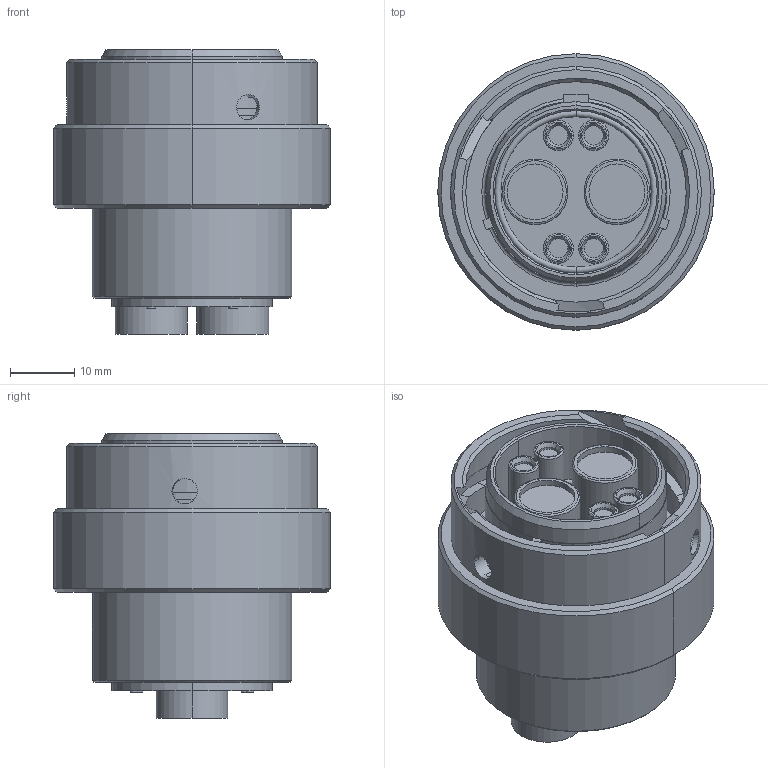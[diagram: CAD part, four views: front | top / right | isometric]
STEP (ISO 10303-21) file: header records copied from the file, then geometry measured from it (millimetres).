
FILE_DESCRIPTION((''),'2;1');
FILE_NAME('C-HD36-18-6SN','2013-03-28T',('workeradm'),('Tyco Electronics Ltd.'),'PRO/ENGINEER BY PARAMETRIC TECHNOLOGY CORPORATION, 2011490','PRO/ENGINEER BY PARAMETRIC TECHNOLOGY CORPORATION, 2011490','');
FILE_SCHEMA(('AUTOMOTIVE_DESIGN { 1 0 10303 214 1 1 1 1 }'));
Length unit declared in the file: millimetre
Products named in the file (1): C-HD36-18-6SN
Bounding box: 42.98 x 42.98 x 44.25 mm (x, y, z)
Volume: 35177.3 mm3; surface area: 13551.7 mm2
Topology: 1 solids, 1 shells, 397 faces, 994 edges, 637 vertices
Faces by surface type: plane 194, cylinder 102, torus 40, bspline 32, cone 29
Entity records: 14097 total; most frequent: CARTESIAN_POINT 4312, ORIENTED_EDGE 1988, DIRECTION 1906, EDGE_CURVE 994, AXIS2_PLACEMENT_3D 654, VERTEX_POINT 637, VECTOR 598, LINE 598
